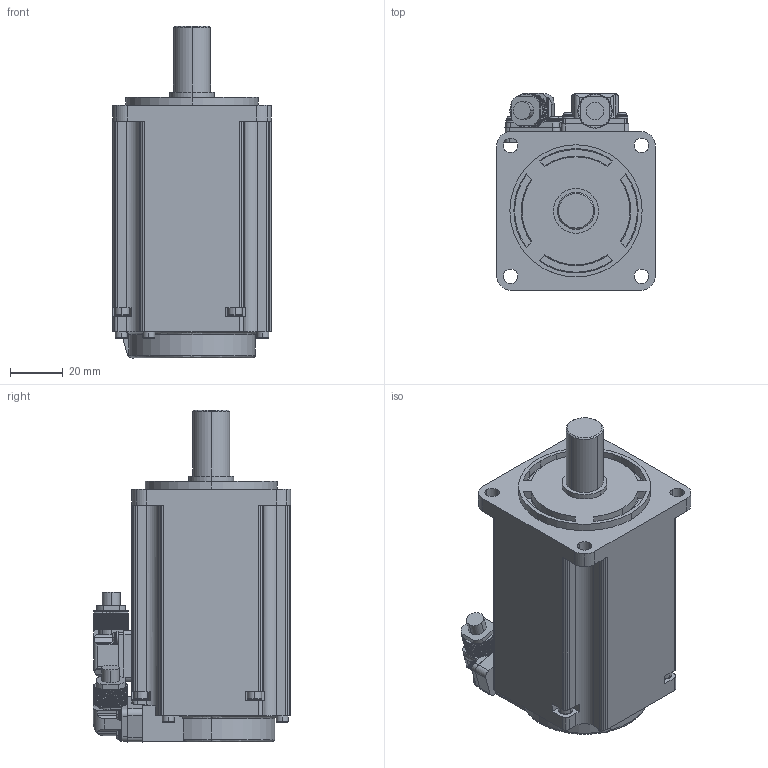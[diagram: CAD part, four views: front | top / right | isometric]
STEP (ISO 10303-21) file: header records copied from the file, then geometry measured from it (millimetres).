
FILE_DESCRIPTION((''),'2;1');
FILE_NAME('U:\WK\W21\1790\登録３\R2AA06040FXH00M.stp','2008-06-30T15:40:48',('HOYANO-CHIEKO'),(''),'Autodesk Inventor 8','Autodesk Inventor 8','');
FILE_SCHEMA(('AUTOMOTIVE_DESIGN { 1 0 10303 214 1 1 1 1 }'));
Length unit declared in the file: millimetre
Products named in the file (10): R2AA06040FXP00; キャップ固定ネジ; なべ子ねじ; ばね座金; 座金; コネクタ2（モータ）; コネクタ（センサ）; Unbrako 六角穴付き  (並目 - メートル) M3 x 25; Unbrako -  M2.5 x 25 M2.5 x 25
Assembly tree (22 placements, depth 3):
  R2AA06040FXP00
    R2AA06040FXP00
    キャップ固定ネジ  x8
      なべ子ねじ
      ばね座金
      座金
    コネクタ2（モータ）
    コネクタ（センサ）
    Unbrako 六角穴付き  (並目 - メートル) M3 x 25  x4
    Unbrako -  M2.5 x 25 M2.5 x 25  x4
Bounding box: 60 x 74.55 x 125.56 mm (x, y, z)
Volume: 315529.1 mm3; surface area: 39520.3 mm2
Topology: 35 solids, 35 shells, 1376 faces, 3659 edges, 2354 vertices
Faces by surface type: plane 748, cylinder 511, cone 68, bspline 49
Entity records: 28078 total; most frequent: CARTESIAN_POINT 5877, DIRECTION 4618, ORIENTED_EDGE 4618, EDGE_CURVE 2309, VECTOR 1540, LINE 1540, AXIS2_PLACEMENT_3D 1539, VERTEX_POINT 1496
